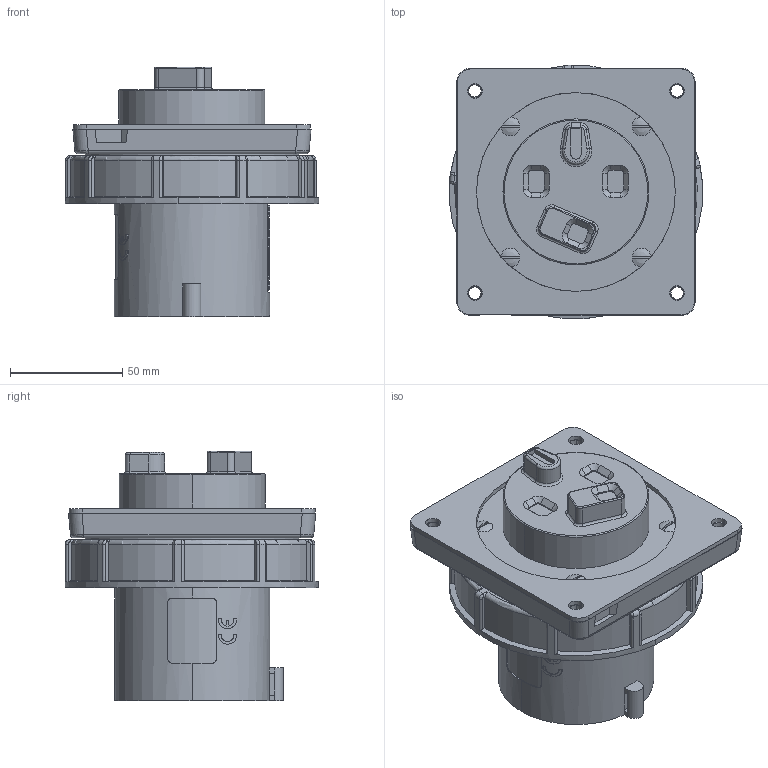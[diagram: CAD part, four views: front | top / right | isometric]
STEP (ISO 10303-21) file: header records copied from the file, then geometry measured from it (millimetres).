
FILE_DESCRIPTION((''),'2;1');
FILE_NAME('1112398_ASM_SW0001','2018-04-17T',('gisse'),('MENNEKES'),'PRO/ENGINEER BY PARAMETRIC TECHNOLOGY CORPORATION, 2015440','PRO/ENGINEER BY PARAMETRIC TECHNOLOGY CORPORATION, 2015440','');
FILE_SCHEMA(('AUTOMOTIVE_DESIGN { 1 0 10303 214 1 1 1 1 }'));
Products named in the file (1): 1112398_ASM_SW0001
Bounding box: 112.81 x 112.91 x 111.2 mm (x, y, z)
Volume: 400043.7 mm3; surface area: 79899.1 mm2
Topology: 1 solids, 1 shells, 1052 faces, 2822 edges, 1832 vertices
Faces by surface type: plane 759, cylinder 186, cone 35, torus 34, bspline 30, sphere 8
Entity records: 55819 total; most frequent: CARTESIAN_POINT 9294, ORIENTED_EDGE 5644, DIRECTION 4638, PRESENTATION_STYLE_ASSIGNMENT 3871, STYLED_ITEM 2826, CURVE_STYLE 2822, EDGE_CURVE 2822, FILL_AREA_STYLE_COLOUR 2094
